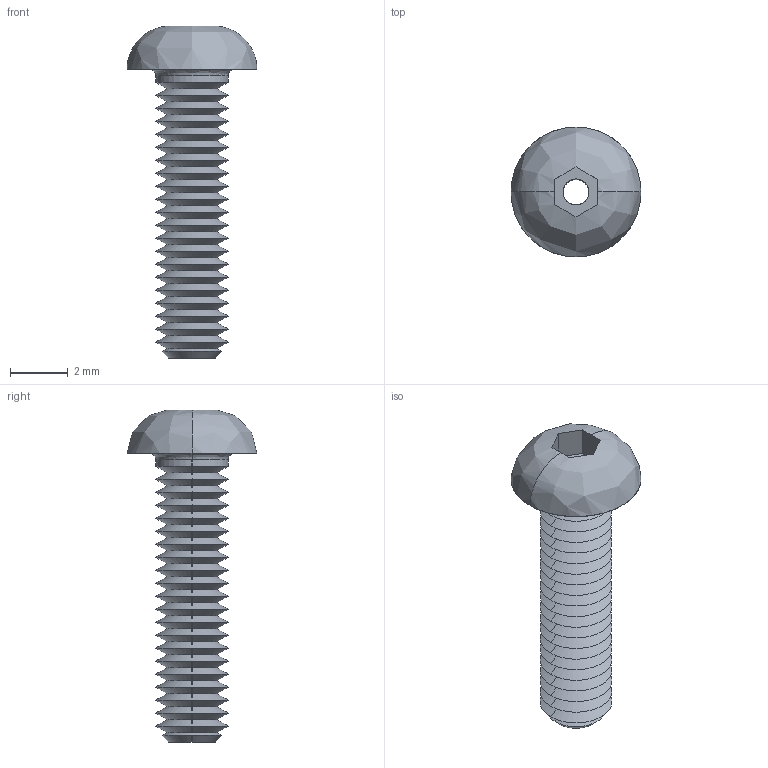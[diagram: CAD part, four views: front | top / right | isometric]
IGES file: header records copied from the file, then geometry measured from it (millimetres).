
Start section: SolidWorks IGES file using analytic representation for surfaces
Global section: file name: C:\Users\liam_\OneDrive\Documents\WORK\Work for WixRoyd\Job Files\J-00019 - Matt Davis CAD Checking\04. CAD Drawings\automotion20190605\P0094_v2\P0094_v2_20190712_IGES\P0094.025-010-A2.igs; native system: SolidWorks 2017; preprocessor: SolidWorks 2017; author: liam_; date: 190712.175051; units: millimetre
Bounding box: 4.5 x 4.5 x 11.5 mm (x, y, z)
Surface area: 201.7 mm2 (no closed solid volume)
Topology: 0 solids, 0 shells, 103 faces, 558 edges, 558 vertices
Faces by surface type: revolution 90, bspline 13
